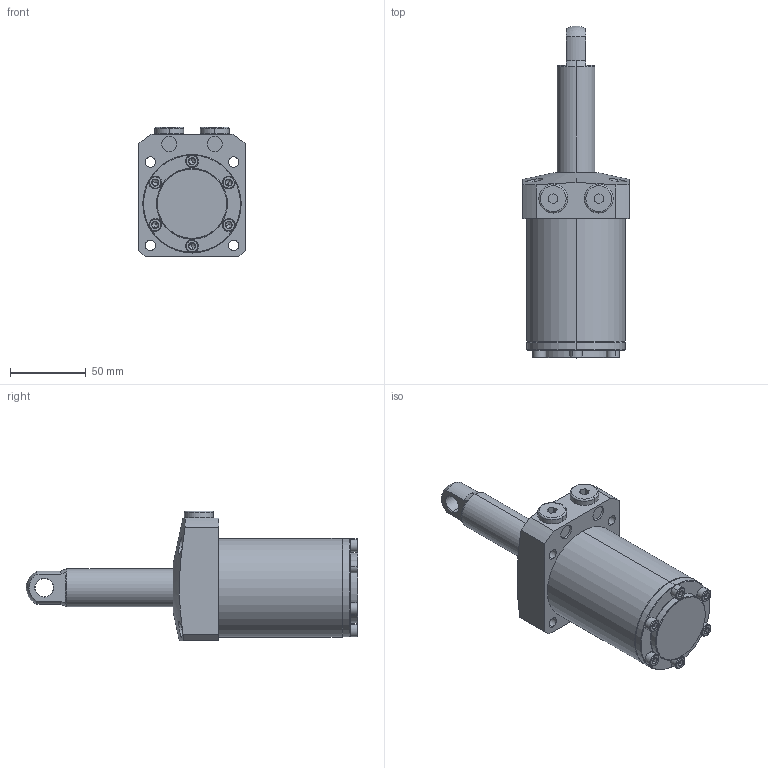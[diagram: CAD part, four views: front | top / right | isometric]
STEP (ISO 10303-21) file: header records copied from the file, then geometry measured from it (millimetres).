
FILE_DESCRIPTION (( 'STEP AP203' ), '1' );
FILE_NAME ('680650-CP-075.step', '2016-11-02T03:25:54', ( 'wxp' ), ( '' ), 'SwSTEP 2.0', 'SolidWorks 2011', '' );
FILE_SCHEMA (( 'CONFIG_CONTROL_DESIGN' ));
Length unit declared in the file: millimetre
Products named in the file (6): 680650-CP-075; 葩璃 680650-CA-15-14^680650-CP-075; 葩璃 68065-CA-15-5^680650-CP-075; 葩璃 68065-CA-15-4^680650-CP-075; 葩璃 68065-CA-15-3^680650-CP-075; 葩璃 68065-CA-15-1^680650-CP-075
Assembly tree (11 placements, depth 2):
  680650-CP-075
    葩璃 68065-CA-15-5^680650-CP-075  x2
    葩璃 680650-CA-15-14^680650-CP-075
    葩璃 68065-CA-15-3^680650-CP-075
    葩璃 68065-CA-15-4^680650-CP-075  x6
    葩璃 68065-CA-15-1^680650-CP-075
Bounding box: 70 x 219 x 85.5 mm (x, y, z)
Volume: 480583.7 mm3; surface area: 62409.1 mm2
Topology: 11 solids, 11 shells, 342 faces, 672 edges, 368 vertices
Faces by surface type: plane 137, cone 96, cylinder 91, torus 16, sphere 2
Entity records: 5638 total; most frequent: CARTESIAN_POINT 1183, DIRECTION 853, ORIENTED_EDGE 692, AXIS2_PLACEMENT_3D 358, EDGE_CURVE 346, VERTEX_POINT 211, EDGE_LOOP 199, CIRCLE 183
